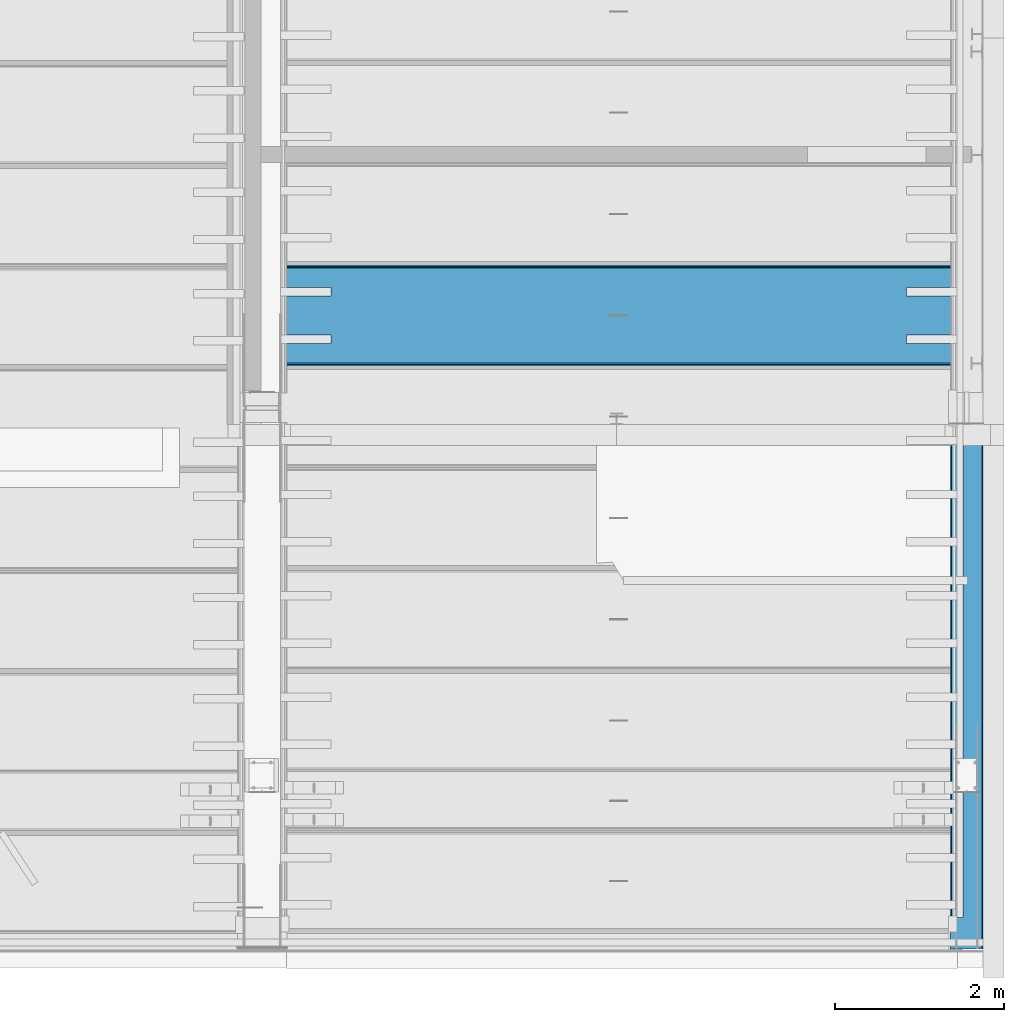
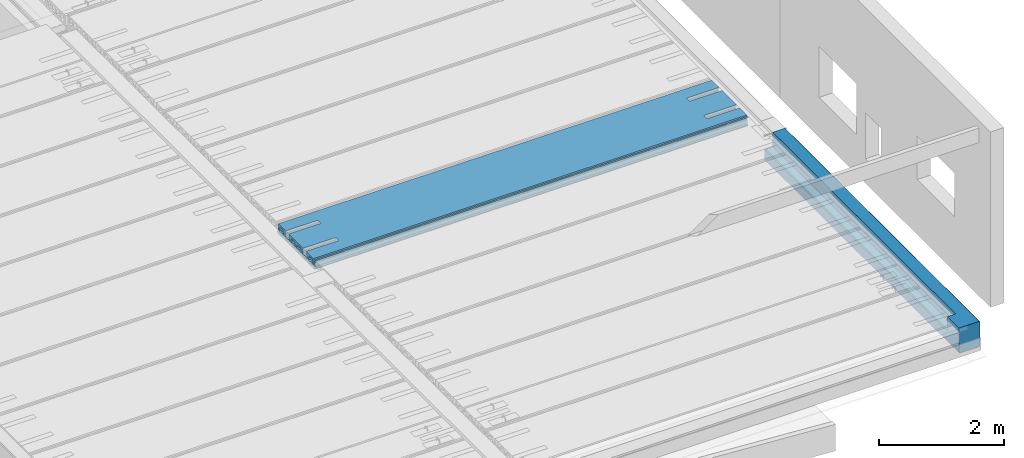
# One storey, part 91 of 230: 2 beams.
"""IFC4X3_ADD2 building model written with IfcOpenShell, lengths in millimetres."""

from ifc_helpers import new_model, si_unit, direction, origin_with_axes, place, context, subcontext, project, spatial, polygons, element, save


model = new_model("IFC4X3_ADD2")

# Units and contexts
model_context = context("Model", 3, precision=1e-05, world=origin_with_axes(), true_north=direction((0.0, 1.0)))
body_context = subcontext(model_context, "Body", "Model", "MODEL_VIEW")
ifc_project = project(units=[si_unit("LENGTHUNIT", "METRE", prefix="MILLI"), si_unit("AREAUNIT", "SQUARE_METRE"), si_unit("VOLUMEUNIT", "CUBIC_METRE"), si_unit("PLANEANGLEUNIT", "RADIAN"), si_unit("TIMEUNIT", "SECOND"), si_unit("MASSUNIT", "GRAM")], contexts=[model_context])

# Site, building, storey
site_placement = place(None, origin_with_axes())
site = spatial("IfcSite", under=ifc_project, at=site_placement, Name="Site", CompositionType="ELEMENT")
building_placement = place(site_placement, origin_with_axes())
building = spatial("IfcBuilding", under=site, at=building_placement, Name="IFC Building Story")
storey_placement = place(building_placement, origin_with_axes())
storey = spatial("IfcBuildingStorey", under=building, at=storey_placement, Name="ETAGE 00 (0)", Elevation=0.0)

# Beams
beam_1_placement = place(storey_placement, origin_with_axes())
element("IfcBeam", 1, at=beam_1_placement, inside=storey, Name="HOLLOWCORE SLAB", ObjectType="EB_SP200", context=body_context, shape_type="Tessellation", body=[
    polygons([(40181.189, -6351.0, 3999.9999909), (40181.189, -7529.0, 3999.9999909), (40181.189, -7540.0, 4012.9999909), (40181.189, -7540.0, 4029.9999909), (40181.189, -7520.0, 4044.9999909), (40181.189, -7518.549987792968, 4119.9999909), (40181.189, -7511.017378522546, 4128.676139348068), (40181.189, -7508.160069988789, 4139.805000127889), (40181.189, -7510.581363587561, 4151.036789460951), (40181.189, -7517.77001953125, 4159.9999909), (40181.189, -7517.288703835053, 4185.002769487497), (40181.189, -7502.0, 4199.9999909), (40181.189, -7270.0, 4199.9999909), (40181.189, -7270.0, 4155.806158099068), (40181.189, -7274.679455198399, 4152.679446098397), (40181.189, -7290.82902517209, 4128.509906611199), (40181.189, -7296.5, 4099.9999909), (40181.189, -7290.82902517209, 4071.490075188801), (40181.189, -7274.679455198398, 4047.320535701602), (40181.189, -7250.509915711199, 4031.170965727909), (40181.189, -7222.0, 4025.4999909), (40181.189, -7193.490084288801, 4031.170965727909), (40181.189, -7169.320544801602, 4047.320535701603), (40181.189, -7153.170974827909, 4071.490075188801), (40181.189, -7147.5, 4099.9999909), (40181.189, -7153.170974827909, 4128.509906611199), (40181.189, -7169.320544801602, 4152.679446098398), (40181.189, -7170.0, 4153.13344354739), (40181.189, -7170.0, 4199.9999909), (40181.189, -6710.0, 4199.9999909), (40181.189, -6710.0, 4153.13344354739), (40181.189, -6710.679455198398, 4152.679446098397), (40181.189, -6726.829025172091, 4128.509906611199), (40181.189, -6732.5, 4099.9999909), (40181.189, -6726.829025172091, 4071.490075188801), (40181.189, -6710.679455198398, 4047.320535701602), (40181.189, -6686.509915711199, 4031.170965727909), (40181.189, -6658.0, 4025.4999909), (40181.189, -6629.490084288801, 4031.170965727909), (40181.189, -6605.320544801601, 4047.320535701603), (40181.189, -6589.17097482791, 4071.490075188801), (40181.189, -6583.5, 4099.9999909), (40181.189, -6589.17097482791, 4128.509906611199), (40181.189, -6605.320544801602, 4152.679446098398), (40181.189, -6610.0, 4155.806158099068), (40181.189, -6610.0, 4199.9999909), (40181.189, -6378.0, 4199.9999909), (40181.189, -6362.711296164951, 4185.002769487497), (40181.189, -6362.22998046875, 4159.9999909), (40181.189, -6369.41863641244, 4151.036789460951), (40181.189, -6371.839930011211, 4139.805000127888), (40181.189, -6368.982621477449, 4128.676139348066), (40181.189, -6361.450012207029, 4119.9999909), (40181.189, -6360.0, 4044.9999909), (40181.189, -6340.0, 4029.9999909), (40181.189, -6340.0, 4012.9999909), (40181.189, -6417.320544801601, 4152.679446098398), (40181.189, -6441.4900842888, 4168.829016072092), (40181.189, -6470.0, 4174.4999909), (40181.189, -6498.5099157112, 4168.829016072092), (40181.189, -6522.679455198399, 4152.679446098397), (40181.189, -6538.82902517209, 4128.509906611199), (40181.189, -6544.5, 4099.9999909), (40181.189, -6538.82902517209, 4071.490075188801), (40181.189, -6522.679455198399, 4047.320535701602), (40181.189, -6498.5099157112, 4031.170965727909), (40181.189, -6470.0, 4025.4999909), (40181.189, -6441.4900842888, 4031.170965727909), (40181.189, -6417.320544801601, 4047.320535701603), (40181.189, -6401.17097482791, 4071.490075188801), (40181.189, -6395.5, 4099.9999909), (40181.189, -6401.17097482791, 4128.509906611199), (40181.189, -6793.320544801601, 4152.679446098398), (40181.189, -6817.490084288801, 4168.829016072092), (40181.189, -6846.0, 4174.4999909), (40181.189, -6874.509915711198, 4168.829016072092), (40181.189, -6898.679455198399, 4152.679446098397), (40181.189, -6914.829025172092, 4128.509906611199), (40181.189, -6920.5, 4099.9999909), (40181.189, -6914.82902517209, 4071.490075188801), (40181.189, -6898.679455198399, 4047.320535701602), (40181.189, -6874.509915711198, 4031.170965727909), (40181.189, -6846.0, 4025.4999909), (40181.189, -6817.490084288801, 4031.170965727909), (40181.189, -6793.320544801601, 4047.320535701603), (40181.189, -6777.170974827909, 4071.490075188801), (40181.189, -6771.5, 4099.9999909), (40181.189, -6777.170974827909, 4128.509906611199), (40181.189, -6981.320544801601, 4152.679446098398), (40181.189, -7005.490084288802, 4168.829016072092), (40181.189, -7034.0, 4174.4999909), (40181.189, -7062.509915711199, 4168.829016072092), (40181.189, -7086.679455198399, 4152.679446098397), (40181.189, -7102.829025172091, 4128.509906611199), (40181.189, -7108.5, 4099.9999909), (40181.189, -7102.829025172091, 4071.490075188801), (40181.189, -7086.679455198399, 4047.320535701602), (40181.189, -7062.509915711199, 4031.170965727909), (40181.189, -7034.0, 4025.4999909), (40181.189, -7005.490084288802, 4031.170965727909), (40181.189, -6981.320544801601, 4047.320535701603), (40181.189, -6965.170974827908, 4071.490075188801), (40181.189, -6959.5, 4099.9999909), (40181.189, -6965.17097482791, 4128.509906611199), (40181.189, -7357.320544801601, 4152.679446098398), (40181.189, -7381.4900842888, 4168.829016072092), (40181.189, -7410.0, 4174.4999909), (40181.189, -7438.5099157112, 4168.829016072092), (40181.189, -7462.679455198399, 4152.679446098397), (40181.189, -7478.829025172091, 4128.509906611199), (40181.189, -7484.499999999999, 4099.9999909), (40181.189, -7478.829025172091, 4071.490075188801), (40181.189, -7462.679455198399, 4047.320535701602), (40181.189, -7438.5099157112, 4031.170965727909), (40181.189, -7410.0, 4025.4999909), (40181.189, -7381.4900842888, 4031.170965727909), (40181.189, -7357.320544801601, 4047.320535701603), (40181.189, -7341.170974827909, 4071.490075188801), (40181.189, -7335.5, 4099.9999909), (40181.189, -7341.170974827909, 4128.509906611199), (48196.18900000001, -6351.0, 3999.9999909), (48196.18900000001, -6340.0, 4012.9999909), (48196.18900000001, -6340.0, 4029.9999909), (48196.18900000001, -6360.0, 4044.9999909), (48196.18900000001, -6361.450012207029, 4119.9999909), (48196.18900000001, -6368.982621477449, 4128.676139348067), (48196.18900000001, -6371.839930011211, 4139.805000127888), (48196.18900000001, -6369.41863641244, 4151.036789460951), (48196.18900000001, -6362.22998046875, 4159.9999909), (48196.18900000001, -6362.711296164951, 4185.002769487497), (48196.18900000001, -6378.0, 4199.9999909), (48196.18900000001, -6610.0, 4199.9999909), (48196.18900000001, -6610.0, 4155.806158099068), (48196.18900000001, -6605.320544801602, 4152.679446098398), (48196.18900000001, -6589.17097482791, 4128.509906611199), (48196.18900000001, -6583.5, 4099.9999909), (48196.18900000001, -6589.17097482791, 4071.490075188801), (48196.18900000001, -6605.320544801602, 4047.320535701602), (48196.18900000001, -6629.490084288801, 4031.170965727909), (48196.18900000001, -6658.0, 4025.4999909), (48196.18900000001, -6686.509915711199, 4031.170965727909), (48196.18900000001, -6710.679455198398, 4047.320535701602), (48196.18900000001, -6726.829025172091, 4071.490075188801), (48196.18900000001, -6732.5, 4099.9999909), (48196.18900000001, -6726.829025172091, 4128.509906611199), (48196.18900000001, -6710.679455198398, 4152.679446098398), (48196.18900000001, -6710.0, 4153.13344354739), (48196.18900000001, -6710.0, 4199.9999909), (48196.18900000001, -7170.0, 4199.9999909), (48196.18900000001, -7170.0, 4153.13344354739), (48196.18900000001, -7169.320544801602, 4152.679446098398), (48196.18900000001, -7153.170974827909, 4128.509906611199), (48196.18900000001, -7147.5, 4099.9999909), (48196.18900000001, -7153.170974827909, 4071.490075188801), (48196.18900000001, -7169.320544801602, 4047.320535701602), (48196.18900000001, -7193.490084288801, 4031.170965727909), (48196.18900000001, -7222.0, 4025.4999909), (48196.18900000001, -7250.509915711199, 4031.170965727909), (48196.18900000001, -7274.679455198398, 4047.320535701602), (48196.18900000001, -7290.82902517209, 4071.490075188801), (48196.18900000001, -7296.5, 4099.9999909), (48196.18900000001, -7290.82902517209, 4128.509906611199), (48196.18900000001, -7274.679455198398, 4152.679446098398), (48196.18900000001, -7270.0, 4155.806158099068), (48196.18900000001, -7270.0, 4199.9999909), (48196.18900000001, -7502.0, 4199.9999909), (48196.18900000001, -7517.288703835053, 4185.002769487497), (48196.18900000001, -7517.77001953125, 4159.9999909), (48196.18900000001, -7510.581363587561, 4151.036789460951), (48196.18900000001, -7508.160069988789, 4139.805000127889), (48196.18900000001, -7511.017378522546, 4128.676139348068), (48196.18900000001, -7518.549987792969, 4119.9999909), (48196.18900000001, -7520.0, 4044.9999909), (48196.18900000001, -7540.0, 4029.9999909), (48196.18900000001, -7540.0, 4012.9999909), (48196.18900000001, -7529.0, 3999.9999909), (48196.18900000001, -6417.320544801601, 4152.679446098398), (48196.18900000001, -6401.17097482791, 4128.509906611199), (48196.18900000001, -6395.5, 4099.9999909), (48196.18900000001, -6401.17097482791, 4071.490075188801), (48196.18900000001, -6417.320544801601, 4047.320535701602), (48196.18900000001, -6441.4900842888, 4031.170965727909), (48196.18900000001, -6470.0, 4025.4999909), (48196.18900000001, -6498.5099157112, 4031.170965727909), (48196.18900000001, -6522.679455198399, 4047.320535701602), (48196.18900000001, -6538.82902517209, 4071.490075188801), (48196.18900000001, -6544.5, 4099.9999909), (48196.18900000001, -6538.82902517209, 4128.509906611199), (48196.18900000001, -6522.679455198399, 4152.679446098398), (48196.18900000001, -6498.5099157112, 4168.829016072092), (48196.18900000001, -6470.0, 4174.4999909), (48196.18900000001, -6441.4900842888, 4168.829016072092), (48196.18900000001, -6793.320544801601, 4152.679446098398), (48196.18900000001, -6777.170974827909, 4128.509906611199), (48196.18900000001, -6771.5, 4099.9999909), (48196.18900000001, -6777.170974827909, 4071.490075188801), (48196.18900000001, -6793.320544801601, 4047.320535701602), (48196.18900000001, -6817.490084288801, 4031.170965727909), (48196.18900000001, -6846.0, 4025.4999909), (48196.18900000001, -6874.509915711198, 4031.170965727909), (48196.18900000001, -6898.679455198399, 4047.320535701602), (48196.18900000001, -6914.829025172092, 4071.490075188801), (48196.18900000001, -6920.5, 4099.9999909), (48196.18900000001, -6914.829025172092, 4128.509906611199), (48196.18900000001, -6898.679455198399, 4152.679446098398), (48196.18900000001, -6874.509915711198, 4168.829016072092), (48196.18900000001, -6846.0, 4174.4999909), (48196.18900000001, -6817.490084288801, 4168.829016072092), (48196.18900000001, -6981.320544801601, 4152.679446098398), (48196.18900000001, -6965.170974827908, 4128.509906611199), (48196.18900000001, -6959.5, 4099.9999909), (48196.18900000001, -6965.170974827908, 4071.490075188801), (48196.18900000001, -6981.320544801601, 4047.320535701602), (48196.18900000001, -7005.490084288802, 4031.170965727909), (48196.18900000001, -7034.0, 4025.4999909), (48196.18900000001, -7062.509915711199, 4031.170965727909), (48196.18900000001, -7086.679455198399, 4047.320535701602), (48196.18900000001, -7102.829025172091, 4071.490075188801), (48196.18900000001, -7108.5, 4099.9999909), (48196.18900000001, -7102.829025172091, 4128.509906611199), (48196.18900000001, -7086.679455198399, 4152.679446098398), (48196.18900000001, -7062.509915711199, 4168.829016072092), (48196.18900000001, -7034.0, 4174.4999909), (48196.18900000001, -7005.490084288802, 4168.829016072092), (48196.18900000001, -7357.320544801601, 4152.679446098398), (48196.18900000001, -7341.170974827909, 4128.509906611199), (48196.18900000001, -7335.5, 4099.9999909), (48196.18900000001, -7341.170974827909, 4071.490075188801), (48196.18900000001, -7357.320544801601, 4047.320535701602), (48196.18900000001, -7381.4900842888, 4031.170965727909), (48196.18900000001, -7410.0, 4025.4999909), (48196.18900000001, -7438.5099157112, 4031.170965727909), (48196.18900000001, -7462.679455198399, 4047.320535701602), (48196.18900000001, -7478.829025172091, 4071.490075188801), (48196.18900000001, -7484.499999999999, 4099.9999909), (48196.18900000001, -7478.829025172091, 4128.509906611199), (48196.18900000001, -7462.679455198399, 4152.679446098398), (48196.18900000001, -7438.5099157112, 4168.829016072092), (48196.18900000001, -7410.0, 4174.4999909), (48196.18900000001, -7381.4900842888, 4168.829016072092), (40781.189, -6610.0, 4199.9999909), (40781.189, -6710.0, 4199.9999909), (40781.189, -7170.0, 4199.9999909), (40781.189, -7270.0, 4199.9999909), (47596.18900000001, -7270.0, 4199.9999909), (47596.18900000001, -7170.0, 4199.9999909), (47596.18900000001, -6710.0, 4199.9999909), (47596.18900000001, -6610.0, 4199.9999909), (47596.18900000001, -6610.0, 4155.806158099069), (47596.18900000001, -6629.490084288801, 4168.829016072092), (40781.189, -6629.490084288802, 4168.829016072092), (40781.189, -6610.0, 4155.806158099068), (47596.18900000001, -6658.0, 4174.4999909), (40781.189, -6658.0, 4174.4999909), (47596.18900000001, -6686.509915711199, 4168.829016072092), (40781.189, -6686.509915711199, 4168.829016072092), (40781.189, -6710.0, 4153.13344354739), (47596.18900000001, -6710.0, 4153.13344354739), (47596.18900000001, -7170.0, 4153.133443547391), (47596.18900000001, -7193.490084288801, 4168.829016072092), (40781.189, -7193.490084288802, 4168.829016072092), (40781.189, -7170.0, 4153.13344354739), (47596.18900000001, -7222.0, 4174.4999909), (40781.189, -7222.0, 4174.4999909), (47596.18900000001, -7250.509915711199, 4168.829016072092), (40781.189, -7250.509915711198, 4168.829016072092), (40781.189, -7270.0, 4155.806158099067), (47596.18900000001, -7270.0, 4155.806158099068), (40781.189, -6710.0, 4199.999996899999), (40781.189, -6610.0, 4199.999996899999), (47596.18900000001, -6610.0, 4199.999996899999), (47596.18900000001, -6710.0, 4199.999996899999), (47596.18900000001, -7170.0, 4199.999996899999), (47596.18900000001, -7270.0, 4199.999996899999), (40781.189, -7270.0, 4199.999996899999), (40781.189, -7170.0, 4199.999996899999)], [[[27, 28, 29]], [[92, 93, 26]], [[92, 26, 27]], [[92, 27, 29]], [[29, 91, 92]], [[91, 29, 30]], [[30, 90, 91]], [[30, 89, 90]], [[94, 95, 25]], [[94, 25, 26]], [[26, 93, 94]], [[96, 97, 24]], [[24, 25, 95]], [[24, 95, 96]], [[97, 23, 24]], [[76, 77, 104]], [[76, 104, 89]], [[89, 75, 76]], [[75, 89, 30]], [[30, 74, 75]], [[30, 73, 74]], [[78, 79, 103]], [[78, 103, 104]], [[104, 77, 78]], [[80, 81, 102]], [[102, 103, 79]], [[102, 79, 80]], [[81, 101, 102]], [[88, 73, 30]], [[88, 30, 31]], [[33, 34, 87]], [[33, 87, 88]], [[88, 32, 33]], [[88, 31, 32]], [[35, 36, 86]], [[86, 87, 34]], [[86, 34, 35]], [[36, 85, 86]], [[44, 45, 46]], [[60, 61, 43]], [[60, 43, 44]], [[60, 44, 46]], [[46, 59, 60]], [[46, 47, 59]], [[47, 58, 59]], [[47, 57, 58]], [[62, 63, 42]], [[62, 42, 43]], [[43, 61, 62]], [[64, 65, 41]], [[41, 42, 63]], [[41, 63, 64]], [[50, 51, 72]], [[50, 72, 57]], [[57, 47, 48]], [[57, 48, 49]], [[57, 49, 50]], [[52, 53, 71]], [[52, 71, 72]], [[72, 51, 52]], [[53, 54, 70]], [[53, 70, 71]], [[54, 55, 56]], [[54, 56, 1]], [[1, 69, 70]], [[1, 70, 54]], [[1, 68, 69]], [[1, 67, 68]], [[1, 66, 67]], [[1, 40, 66]], [[40, 41, 65]], [[40, 65, 66]], [[1, 39, 40]], [[1, 38, 39]], [[1, 84, 38]], [[84, 37, 38]], [[84, 85, 36]], [[84, 36, 37]], [[1, 83, 84]], [[1, 100, 83]], [[100, 82, 83]], [[100, 101, 81]], [[100, 81, 82]], [[1, 99, 100]], [[1, 22, 99]], [[22, 98, 99]], [[22, 23, 97]], [[22, 97, 98]], [[1, 21, 22]], [[1, 2, 21]], [[2, 20, 21]], [[2, 19, 20]], [[9, 10, 11]], [[9, 11, 12]], [[109, 110, 8]], [[109, 8, 9]], [[9, 12, 108]], [[9, 108, 109]], [[12, 107, 108]], [[107, 12, 13]], [[13, 106, 107]], [[13, 105, 106]], [[110, 7, 8]], [[112, 113, 5]], [[5, 6, 111]], [[5, 111, 112]], [[6, 7, 110]], [[6, 110, 111]], [[116, 117, 18]], [[116, 18, 19]], [[19, 115, 116]], [[19, 2, 115]], [[2, 114, 115]], [[2, 5, 113]], [[2, 113, 114]], [[2, 3, 4]], [[2, 4, 5]], [[118, 119, 17]], [[118, 17, 18]], [[18, 117, 118]], [[120, 105, 16]], [[16, 17, 119]], [[16, 119, 120]], [[105, 13, 15]], [[105, 15, 16]], [[13, 14, 15]], [[173, 174, 175]], [[173, 175, 176]], [[128, 129, 130]], [[128, 130, 131]], [[128, 131, 177]], [[177, 178, 127]], [[177, 127, 128]], [[178, 126, 127]], [[180, 181, 124]], [[124, 125, 179]], [[124, 179, 180]], [[125, 126, 178]], [[125, 178, 179]], [[192, 177, 131]], [[131, 191, 192]], [[191, 131, 132]], [[132, 190, 191]], [[132, 189, 190]], [[132, 133, 188]], [[132, 188, 189]], [[135, 136, 187]], [[135, 187, 188]], [[188, 134, 135]], [[188, 133, 134]], [[137, 138, 186]], [[186, 187, 136]], [[186, 136, 137]], [[138, 139, 185]], [[138, 185, 186]], [[139, 184, 185]], [[146, 147, 148]], [[148, 193, 145]], [[148, 145, 146]], [[194, 195, 144]], [[194, 144, 145]], [[145, 193, 194]], [[196, 197, 143]], [[143, 144, 195]], [[143, 195, 196]], [[197, 142, 143]], [[208, 193, 148]], [[148, 207, 208]], [[148, 209, 207]], [[209, 206, 207]], [[209, 205, 206]], [[209, 204, 205]], [[210, 211, 203]], [[210, 203, 204]], [[204, 209, 210]], [[212, 213, 202]], [[202, 203, 211]], [[202, 211, 212]], [[213, 201, 202]], [[224, 209, 148]], [[148, 223, 224]], [[148, 149, 223]], [[149, 222, 223]], [[149, 221, 222]], [[149, 150, 220]], [[149, 220, 221]], [[152, 153, 219]], [[152, 219, 220]], [[220, 151, 152]], [[220, 150, 151]], [[154, 155, 218]], [[218, 219, 153]], [[218, 153, 154]], [[155, 217, 218]], [[163, 164, 165]], [[165, 225, 162]], [[165, 162, 163]], [[226, 227, 161]], [[226, 161, 162]], [[162, 225, 226]], [[228, 229, 160]], [[160, 161, 227]], [[160, 227, 228]], [[235, 236, 171]], [[235, 171, 172]], [[172, 173, 234]], [[172, 234, 235]], [[173, 176, 233]], [[173, 233, 234]], [[176, 232, 233]], [[176, 231, 232]], [[176, 230, 231]], [[176, 159, 230]], [[159, 160, 229]], [[159, 229, 230]], [[176, 158, 159]], [[176, 157, 158]], [[176, 216, 157]], [[216, 156, 157]], [[216, 217, 155]], [[216, 155, 156]], [[176, 215, 216]], [[176, 200, 215]], [[200, 214, 215]], [[200, 201, 213]], [[200, 213, 214]], [[176, 199, 200]], [[176, 141, 199]], [[141, 198, 199]], [[141, 142, 197]], [[141, 197, 198]], [[176, 140, 141]], [[176, 183, 140]], [[183, 184, 139]], [[183, 139, 140]], [[176, 121, 183]], [[121, 182, 183]], [[121, 124, 181]], [[121, 181, 182]], [[121, 122, 123]], [[121, 123, 124]], [[236, 170, 171]], [[240, 225, 165]], [[165, 239, 240]], [[165, 166, 239]], [[166, 238, 239]], [[166, 169, 237]], [[166, 237, 238]], [[169, 170, 236]], [[169, 236, 237]], [[166, 167, 168]], [[166, 168, 169]], [[2, 1, 121, 176]], [[3, 2, 176, 175]], [[4, 3, 175, 174]], [[5, 4, 174, 173]], [[6, 5, 173, 172]], [[7, 6, 172, 171]], [[8, 7, 171, 170]], [[9, 8, 170, 169]], [[10, 9, 169, 168]], [[11, 10, 168, 167]], [[12, 11, 167, 166]], [[242, 30, 29]], [[242, 29, 243]], [[244, 13, 12]], [[244, 12, 166]], [[166, 243, 244]], [[242, 243, 166]], [[166, 241, 242]], [[246, 149, 148]], [[246, 148, 247]], [[248, 132, 131]], [[248, 131, 47]], [[47, 247, 248]], [[246, 247, 47]], [[47, 245, 246]], [[47, 241, 166]], [[47, 166, 245]], [[166, 165, 245]], [[47, 46, 241]], [[48, 47, 131, 130]], [[49, 48, 130, 129]], [[50, 49, 129, 128]], [[51, 50, 128, 127]], [[52, 51, 127, 126]], [[53, 52, 126, 125]], [[54, 53, 125, 124]], [[55, 54, 124, 123]], [[56, 55, 123, 122]], [[1, 56, 122, 121]], [[58, 57, 177, 192]], [[59, 58, 192, 191]], [[60, 59, 191, 190]], [[61, 60, 190, 189]], [[62, 61, 189, 188]], [[63, 62, 188, 187]], [[64, 63, 187, 186]], [[65, 64, 186, 185]], [[66, 65, 185, 184]], [[67, 66, 184, 183]], [[68, 67, 183, 182]], [[69, 68, 182, 181]], [[70, 69, 181, 180]], [[71, 70, 180, 179]], [[72, 71, 179, 178]], [[57, 72, 178, 177]], [[252, 45, 44]], [[252, 44, 249]], [[249, 250, 251]], [[249, 251, 252]], [[44, 134, 249]], [[134, 133, 249]], [[251, 250, 253, 254]], [[254, 253, 255, 256]], [[258, 147, 146]], [[258, 146, 257]], [[257, 256, 255]], [[257, 255, 258]], [[146, 32, 257]], [[32, 31, 257]], [[33, 32, 146, 145]], [[34, 33, 145, 144]], [[35, 34, 144, 143]], [[36, 35, 143, 142]], [[37, 36, 142, 141]], [[38, 37, 141, 140]], [[39, 38, 140, 139]], [[40, 39, 139, 138]], [[41, 40, 138, 137]], [[42, 41, 137, 136]], [[43, 42, 136, 135]], [[44, 43, 135, 134]], [[74, 73, 193, 208]], [[75, 74, 208, 207]], [[76, 75, 207, 206]], [[77, 76, 206, 205]], [[78, 77, 205, 204]], [[79, 78, 204, 203]], [[80, 79, 203, 202]], [[81, 80, 202, 201]], [[82, 81, 201, 200]], [[83, 82, 200, 199]], [[84, 83, 199, 198]], [[85, 84, 198, 197]], [[86, 85, 197, 196]], [[87, 86, 196, 195]], [[88, 87, 195, 194]], [[73, 88, 194, 193]], [[90, 89, 209, 224]], [[91, 90, 224, 223]], [[92, 91, 223, 222]], [[93, 92, 222, 221]], [[94, 93, 221, 220]], [[95, 94, 220, 219]], [[96, 95, 219, 218]], [[97, 96, 218, 217]], [[98, 97, 217, 216]], [[99, 98, 216, 215]], [[100, 99, 215, 214]], [[101, 100, 214, 213]], [[102, 101, 213, 212]], [[103, 102, 212, 211]], [[104, 103, 211, 210]], [[89, 104, 210, 209]], [[262, 28, 27]], [[262, 27, 259]], [[259, 260, 261]], [[259, 261, 262]], [[27, 151, 259]], [[151, 150, 259]], [[260, 263, 264, 261]], [[263, 265, 266, 264]], [[268, 164, 163]], [[268, 163, 267]], [[267, 266, 265]], [[267, 265, 268]], [[163, 15, 267]], [[15, 14, 267]], [[16, 15, 163, 162]], [[17, 16, 162, 161]], [[18, 17, 161, 160]], [[19, 18, 160, 159]], [[20, 19, 159, 158]], [[21, 20, 158, 157]], [[22, 21, 157, 156]], [[23, 22, 156, 155]], [[24, 23, 155, 154]], [[25, 24, 154, 153]], [[26, 25, 153, 152]], [[27, 26, 152, 151]], [[106, 105, 225, 240]], [[107, 106, 240, 239]], [[108, 107, 239, 238]], [[109, 108, 238, 237]], [[110, 109, 237, 236]], [[111, 110, 236, 235]], [[112, 111, 235, 234]], [[113, 112, 234, 233]], [[114, 113, 233, 232]], [[115, 114, 232, 231]], [[116, 115, 231, 230]], [[117, 116, 230, 229]], [[118, 117, 229, 228]], [[119, 118, 228, 227]], [[120, 119, 227, 226]], [[105, 120, 226, 225]], [[46, 45, 252, 241]], [[31, 30, 269, 257]], [[256, 257, 242]], [[242, 270, 254]], [[242, 254, 256]], [[270, 251, 254]], [[270, 252, 251]], [[148, 147, 258, 247]], [[133, 132, 271, 249]], [[250, 249, 248]], [[248, 253, 250]], [[248, 272, 255]], [[248, 255, 253]], [[272, 258, 255]], [[165, 164, 268, 245]], [[150, 149, 273, 259]], [[260, 259, 246]], [[246, 274, 263]], [[246, 263, 260]], [[274, 265, 263]], [[274, 268, 265]], [[262, 243, 29, 28]], [[275, 267, 14, 13]], [[266, 267, 244]], [[244, 264, 266]], [[244, 276, 261]], [[244, 261, 264]], [[276, 262, 261]]]),
])
beam_2_placement = place(storey_placement, origin_with_axes())
element("IfcBeam", 2, at=beam_2_placement, inside=storey, Name="BEAM", ObjectType="EB_RL_A500*390*225*150*15", context=body_context, shape_type="Tessellation", body=[
    polygons([(48115.68599999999, -14440.0, 3785.000000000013), (48115.68599999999, -8210.0, 3785.000000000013), (48130.686, -8210.0, 3770.0), (48130.686, -14440.0, 3770.0), (48490.68599999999, -8210.0, 3770.0), (48490.68599999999, -14440.0, 3770.0), (48505.68599999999, -14440.0, 4255.000000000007), (48505.68599999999, -8210.0, 4255.000000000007), (48490.68599999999, -8210.0, 4270.0), (48490.68599999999, -14440.0, 4270.0), (48505.68599999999, -14440.0, 3785.000000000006), (48505.68599999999, -8210.0, 3785.000000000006), (48115.68599999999, -8210.0, 3980.0), (48130.686, -8210.0, 3995.000000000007), (48265.68599999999, -8210.0, 3995.000000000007), (48265.68599999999, -8210.0, 4270.0), (48265.68599999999, -14070.0, 4270.0), (48265.68599999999, -14440.0, 4270.0), (48115.68599999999, -14440.0, 3980.0), (48115.68599999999, -14070.0, 3980.0), (48130.686, -14070.0, 3995.000000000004), (48265.68599999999, -14070.0, 3995.000000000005), (48115.68599999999, -14070.0, 4270.0), (48115.68599999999, -14440.0, 4270.0)], [[[1, 2, 3, 4]], [[4, 3, 5, 6]], [[7, 8, 9, 10]], [[11, 12, 8, 7]], [[6, 5, 12, 11]], [[15, 16, 9]], [[15, 9, 8]], [[15, 8, 12]], [[12, 5, 3]], [[12, 3, 15]], [[3, 2, 13]], [[3, 13, 14]], [[3, 14, 15]], [[17, 18, 10]], [[10, 9, 16]], [[10, 16, 17]], [[20, 13, 2]], [[20, 2, 1]], [[1, 19, 20]], [[20, 21, 14, 13]], [[21, 22, 15, 14]], [[22, 17, 16, 15]], [[21, 20, 23]], [[23, 17, 22]], [[23, 22, 21]], [[24, 23, 20, 19]], [[19, 1, 4]], [[19, 4, 6]], [[19, 6, 11]], [[18, 24, 19]], [[19, 11, 7]], [[19, 7, 10]], [[19, 10, 18]], [[18, 17, 23, 24]]]),
])

save(model, "model.ifc")
